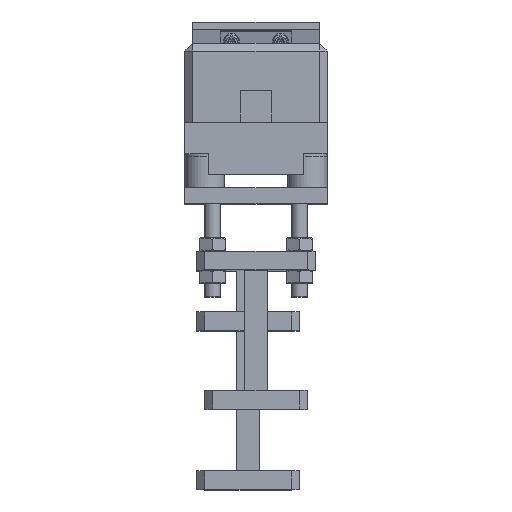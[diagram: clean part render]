
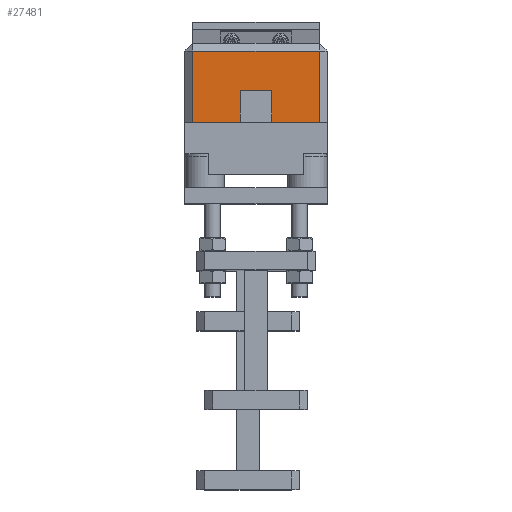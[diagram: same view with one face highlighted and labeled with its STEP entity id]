
A CAD part, top view. The second image highlights one B-rep face of the part: STEP entity #27481.
In plain terms, the highlighted planar face has unit normal (0, 0, 1).
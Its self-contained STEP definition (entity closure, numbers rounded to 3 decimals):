
#101 = ORIENTED_EDGE ( 'NONE', *, *, #20975, .F. ) ;
#582 = VECTOR ( 'NONE', #27833, 1000. ) ;
#973 = ORIENTED_EDGE ( 'NONE', *, *, #7709, .F. ) ;
#1576 = DIRECTION ( 'NONE',  ( 1., 0., 0. ) ) ;
#1745 = AXIS2_PLACEMENT_3D ( 'NONE', #14150, #14647, #32810 ) ;
#2245 = LINE ( 'NONE', #20601, #3914 ) ;
#2374 = CARTESIAN_POINT ( 'NONE',  ( -4858.064, 216.45, 134.208 ) ) ;
#3615 = CARTESIAN_POINT ( 'NONE',  ( -4841.564, 191.45, 134.208 ) ) ;
#3914 = VECTOR ( 'NONE', #20934, 1000. ) ;
#4240 = PLANE ( 'NONE',  #1745 ) ;
#4379 = CARTESIAN_POINT ( 'NONE',  ( -4858.064, 188.45, 134.208 ) ) ;
#5579 = ORIENTED_EDGE ( 'NONE', *, *, #17021, .F. ) ;
#6163 = FACE_OUTER_BOUND ( 'NONE', #29378, .T. ) ;
#6841 = DIRECTION ( 'NONE',  ( -1., 0., 0. ) ) ;
#7010 = CARTESIAN_POINT ( 'NONE',  ( -4841.564, 171.45, 134.208 ) ) ;
#7414 = EDGE_CURVE ( 'NONE', #14079, #20653, #14518, .T. ) ;
#7709 = EDGE_CURVE ( 'NONE', #31900, #14079, #25298, .T. ) ;
#7845 = CARTESIAN_POINT ( 'NONE',  ( -4808.064, 188.45, 134.208 ) ) ;
#8928 = EDGE_CURVE ( 'NONE', #23804, #21037, #31550, .T. ) ;
#9793 = LINE ( 'NONE', #7010, #22815 ) ;
#9880 = EDGE_CURVE ( 'NONE', #31712, #17373, #30213, .T. ) ;
#10935 = VECTOR ( 'NONE', #24735, 1000. ) ;
#11505 = ORIENTED_EDGE ( 'NONE', *, *, #7414, .F. ) ;
#12878 = ORIENTED_EDGE ( 'NONE', *, *, #8928, .F. ) ;
#14079 = VERTEX_POINT ( 'NONE', #27810 ) ;
#14122 = EDGE_CURVE ( 'NONE', #20653, #23804, #9793, .T. ) ;
#14150 = CARTESIAN_POINT ( 'NONE',  ( -4841.564, 188.45, 134.208 ) ) ;
#14518 = LINE ( 'NONE', #32993, #582 ) ;
#14647 = DIRECTION ( 'NONE',  ( 0., 0., -1. ) ) ;
#17021 = EDGE_CURVE ( 'NONE', #17373, #20141, #2245, .T. ) ;
#17351 = EDGE_CURVE ( 'NONE', #21037, #31712, #27337, .T. ) ;
#17373 = VERTEX_POINT ( 'NONE', #22122 ) ;
#18752 = ORIENTED_EDGE ( 'NONE', *, *, #9880, .F. ) ;
#20141 = VERTEX_POINT ( 'NONE', #25668 ) ;
#20478 = VECTOR ( 'NONE', #1576, 1000. ) ;
#20601 = CARTESIAN_POINT ( 'NONE',  ( -4841.564, 171.45, 134.208 ) ) ;
#20653 = VERTEX_POINT ( 'NONE', #23469 ) ;
#20816 = DIRECTION ( 'NONE',  ( 0., 1., 0. ) ) ;
#20934 = DIRECTION ( 'NONE',  ( -1., 0., 0. ) ) ;
#20975 = EDGE_CURVE ( 'NONE', #20141, #31900, #31032, .T. ) ;
#21037 = VERTEX_POINT ( 'NONE', #33287 ) ;
#22122 = CARTESIAN_POINT ( 'NONE',  ( -4828.064, 171.45, 134.208 ) ) ;
#22815 = VECTOR ( 'NONE', #6841, 1000. ) ;
#22958 = VECTOR ( 'NONE', #25689, 1000. ) ;
#23047 = CARTESIAN_POINT ( 'NONE',  ( -4808.064, 171.45, 134.208 ) ) ;
#23469 = CARTESIAN_POINT ( 'NONE',  ( -4778.064, 171.45, 134.208 ) ) ;
#23804 = VERTEX_POINT ( 'NONE', #23047 ) ;
#24020 = VECTOR ( 'NONE', #20816, 1000. ) ;
#24735 = DIRECTION ( 'NONE',  ( -1., 0., 0. ) ) ;
#25134 = CARTESIAN_POINT ( 'NONE',  ( -4841.564, 216.45, 134.208 ) ) ;
#25298 = LINE ( 'NONE', #25134, #20478 ) ;
#25668 = CARTESIAN_POINT ( 'NONE',  ( -4858.064, 171.45, 134.208 ) ) ;
#25689 = DIRECTION ( 'NONE',  ( 0., 1., 0. ) ) ;
#26974 = ORIENTED_EDGE ( 'NONE', *, *, #17351, .F. ) ;
#26976 = CARTESIAN_POINT ( 'NONE',  ( -4828.064, 191.45, 134.208 ) ) ;
#27337 = LINE ( 'NONE', #3615, #10935 ) ;
#27481 = ADVANCED_FACE ( 'NONE', ( #6163 ), #4240, .F. ) ;
#27810 = CARTESIAN_POINT ( 'NONE',  ( -4778.064, 216.45, 134.208 ) ) ;
#27833 = DIRECTION ( 'NONE',  ( 0., -1., 0. ) ) ;
#27965 = DIRECTION ( 'NONE',  ( 0., -1., 0. ) ) ;
#29325 = ORIENTED_EDGE ( 'NONE', *, *, #14122, .F. ) ;
#29378 = EDGE_LOOP ( 'NONE', ( #11505, #973, #101, #5579, #18752, #26974, #12878, #29325 ) ) ;
#29641 = VECTOR ( 'NONE', #27965, 1000. ) ;
#30213 = LINE ( 'NONE', #30369, #29641 ) ;
#30369 = CARTESIAN_POINT ( 'NONE',  ( -4828.064, 188.45, 134.208 ) ) ;
#31032 = LINE ( 'NONE', #4379, #24020 ) ;
#31550 = LINE ( 'NONE', #7845, #22958 ) ;
#31712 = VERTEX_POINT ( 'NONE', #26976 ) ;
#31900 = VERTEX_POINT ( 'NONE', #2374 ) ;
#32810 = DIRECTION ( 'NONE',  ( -1., 0., 0. ) ) ;
#32993 = CARTESIAN_POINT ( 'NONE',  ( -4778.064, 188.45, 134.208 ) ) ;
#33287 = CARTESIAN_POINT ( 'NONE',  ( -4808.064, 191.45, 134.208 ) ) ;
